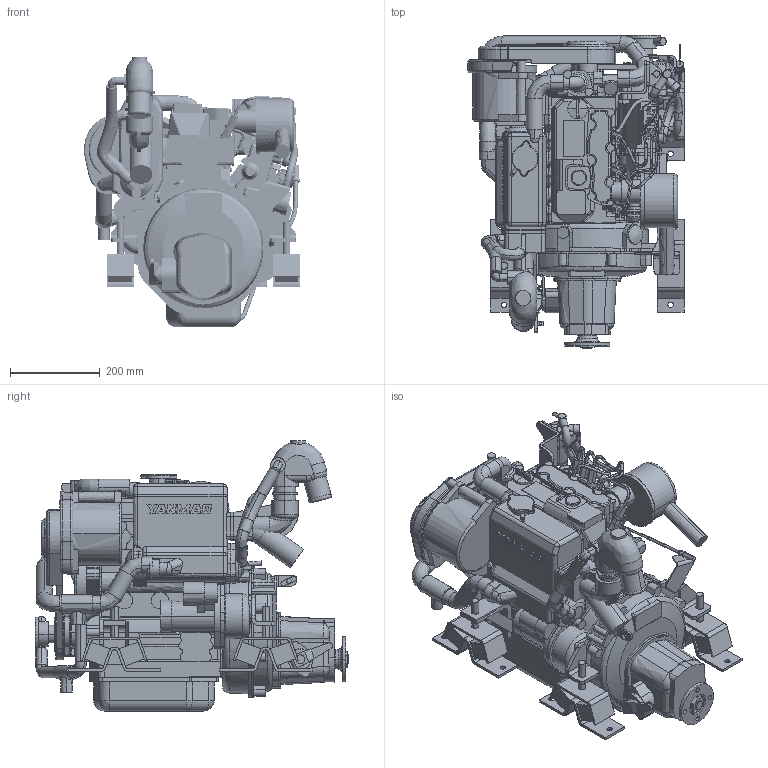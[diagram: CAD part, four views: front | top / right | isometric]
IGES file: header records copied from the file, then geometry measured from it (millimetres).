
Start section: Elysium IGES Interface
Global section: file name: C:\_OH CADenZO\Yanmar\Final Drawings R2009\YM-Serie\3YM-Serie\3D Drawing Workfile\YM_3YM20_KM2P-1_R2010-01.igs; native system: CoCreate Modeling 16.00D  29-May-2009; preprocessor: CoCreate IGES_3D V2.2; author: Unknown; organization: Unknown; date: 20100324.094322; units: millimetre
Bounding box: 480.51 x 696.5 x 600.3 mm (x, y, z)
Volume: 47102011.8 mm3; surface area: 3731232.5 mm2
Topology: 56 solids, 56 shells, 3723 faces, 9995 edges, 6492 vertices
Faces by surface type: bspline 3723
